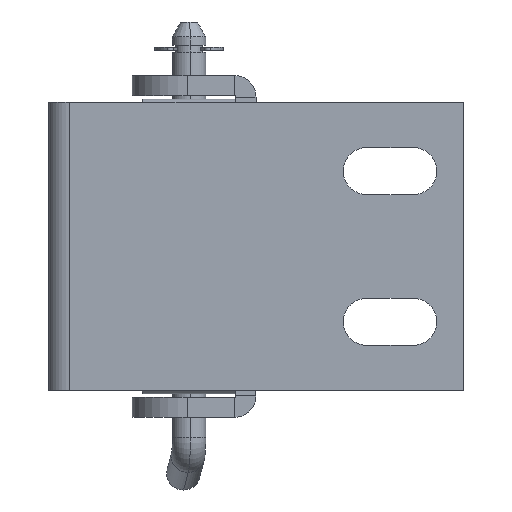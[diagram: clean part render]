
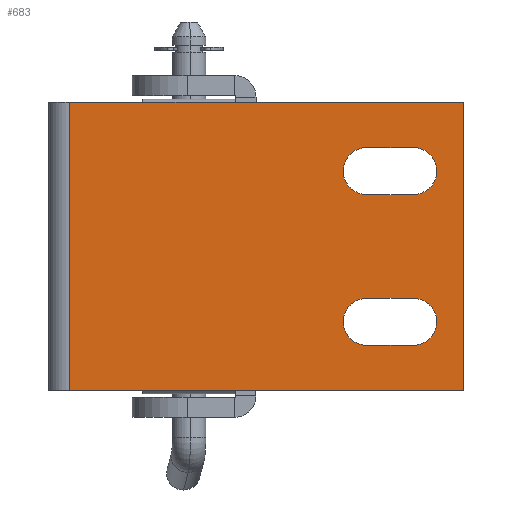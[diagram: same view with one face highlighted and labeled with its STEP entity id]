
A CAD part, front view. The second image highlights one B-rep face of the part: STEP entity #683.
In plain terms, the highlighted planar face has unit normal (0, -1, 0).
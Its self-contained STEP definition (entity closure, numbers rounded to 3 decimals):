
#509 = VERTEX_POINT ( 'NONE', #2243 ) ;
#558 = EDGE_CURVE ( 'NONE', #559, #626, #2296, .T. ) ;
#559 = VERTEX_POINT ( 'NONE', #2292 ) ;
#626 = VERTEX_POINT ( 'NONE', #2481 ) ;
#668 = EDGE_LOOP ( 'NONE', ( #669, #673, #676, #732 ) ) ;
#669 = ORIENTED_EDGE ( 'NONE', *, *, #670, .F. ) ;
#670 = EDGE_CURVE ( 'NONE', #671, #672, #2539, .T. ) ;
#671 = VERTEX_POINT ( 'NONE', #2534 ) ;
#672 = VERTEX_POINT ( 'NONE', #2533 ) ;
#673 = ORIENTED_EDGE ( 'NONE', *, *, #674, .F. ) ;
#674 = EDGE_CURVE ( 'NONE', #675, #671, #2532, .T. ) ;
#675 = VERTEX_POINT ( 'NONE', #2528 ) ;
#676 = ORIENTED_EDGE ( 'NONE', *, *, #677, .F. ) ;
#677 = EDGE_CURVE ( 'NONE', #678, #675, #2527, .T. ) ;
#678 = VERTEX_POINT ( 'NONE', #2522 ) ;
#680 = EDGE_CURVE ( 'NONE', #509, #626, #2521, .T. ) ;
#683 = ADVANCED_FACE ( 'NONE', ( #2517, #2516, #2515 ), #2581, .T. ) ;
#684 = EDGE_LOOP ( 'NONE', ( #685, #689, #692, #748 ) ) ;
#685 = ORIENTED_EDGE ( 'NONE', *, *, #686, .F. ) ;
#686 = EDGE_CURVE ( 'NONE', #687, #688, #2576, .T. ) ;
#687 = VERTEX_POINT ( 'NONE', #2571 ) ;
#688 = VERTEX_POINT ( 'NONE', #2570 ) ;
#689 = ORIENTED_EDGE ( 'NONE', *, *, #690, .F. ) ;
#690 = EDGE_CURVE ( 'NONE', #691, #687, #2569, .T. ) ;
#691 = VERTEX_POINT ( 'NONE', #2565 ) ;
#692 = ORIENTED_EDGE ( 'NONE', *, *, #746, .F. ) ;
#732 = ORIENTED_EDGE ( 'NONE', *, *, #733, .F. ) ;
#733 = EDGE_CURVE ( 'NONE', #672, #678, #2622, .T. ) ;
#734 = EDGE_LOOP ( 'NONE', ( #735, #736, #739, #741 ) ) ;
#735 = ORIENTED_EDGE ( 'NONE', *, *, #558, .F. ) ;
#736 = ORIENTED_EDGE ( 'NONE', *, *, #737, .F. ) ;
#737 = EDGE_CURVE ( 'NONE', #738, #559, #2618, .T. ) ;
#738 = VERTEX_POINT ( 'NONE', #2614 ) ;
#739 = ORIENTED_EDGE ( 'NONE', *, *, #740, .T. ) ;
#740 = EDGE_CURVE ( 'NONE', #738, #509, #2680, .T. ) ;
#741 = ORIENTED_EDGE ( 'NONE', *, *, #680, .T. ) ;
#746 = EDGE_CURVE ( 'NONE', #747, #691, #2669, .T. ) ;
#747 = VERTEX_POINT ( 'NONE', #2664 ) ;
#748 = ORIENTED_EDGE ( 'NONE', *, *, #749, .F. ) ;
#749 = EDGE_CURVE ( 'NONE', #688, #747, #2663, .T. ) ;
#2243 = CARTESIAN_POINT ( 'NONE',  ( 3.2, 0., 43. ) ) ;
#2292 = CARTESIAN_POINT ( 'NONE',  ( 62., 0., 0. ) ) ;
#2293 = DIRECTION ( 'NONE',  ( -1., 0., 0. ) ) ;
#2294 = VECTOR ( 'NONE', #2293, 1000. ) ;
#2295 = CARTESIAN_POINT ( 'NONE',  ( 0., 0., 0. ) ) ;
#2296 = LINE ( 'NONE', #2295, #2294 ) ;
#2481 = CARTESIAN_POINT ( 'NONE',  ( 3.2, 0., 0. ) ) ;
#2515 = FACE_OUTER_BOUND ( 'NONE', #734, .T. ) ;
#2516 = FACE_BOUND ( 'NONE', #668, .T. ) ;
#2517 = FACE_BOUND ( 'NONE', #684, .T. ) ;
#2518 = DIRECTION ( 'NONE',  ( 0., 0., -1. ) ) ;
#2519 = VECTOR ( 'NONE', #2518, 1000. ) ;
#2520 = CARTESIAN_POINT ( 'NONE',  ( 3.2, 0., 43. ) ) ;
#2521 = LINE ( 'NONE', #2520, #2519 ) ;
#2522 = CARTESIAN_POINT ( 'NONE',  ( 47.5, 0., 36.25 ) ) ;
#2523 = DIRECTION ( 'NONE',  ( 0., 0., -1. ) ) ;
#2524 = DIRECTION ( 'NONE',  ( 0., -1., 0. ) ) ;
#2525 = CARTESIAN_POINT ( 'NONE',  ( 47.5, 0., 32.75 ) ) ;
#2526 = AXIS2_PLACEMENT_3D ( 'NONE', #2525, #2524, #2523 ) ;
#2527 = CIRCLE ( 'NONE', #2526, 3.5 ) ;
#2528 = CARTESIAN_POINT ( 'NONE',  ( 47.5, 0., 29.25 ) ) ;
#2529 = DIRECTION ( 'NONE',  ( 1., 0., 0. ) ) ;
#2530 = VECTOR ( 'NONE', #2529, 1000. ) ;
#2531 = CARTESIAN_POINT ( 'NONE',  ( 0., 0., 29.25 ) ) ;
#2532 = LINE ( 'NONE', #2531, #2530 ) ;
#2533 = CARTESIAN_POINT ( 'NONE',  ( 54.5, 0., 36.25 ) ) ;
#2534 = CARTESIAN_POINT ( 'NONE',  ( 54.5, 0., 29.25 ) ) ;
#2535 = DIRECTION ( 'NONE',  ( 0., 0., -1. ) ) ;
#2536 = DIRECTION ( 'NONE',  ( 0., -1., 0. ) ) ;
#2537 = CARTESIAN_POINT ( 'NONE',  ( 54.5, 0., 32.75 ) ) ;
#2538 = AXIS2_PLACEMENT_3D ( 'NONE', #2537, #2536, #2535 ) ;
#2539 = CIRCLE ( 'NONE', #2538, 3.5 ) ;
#2565 = CARTESIAN_POINT ( 'NONE',  ( 47.5, 0., 6.75 ) ) ;
#2566 = DIRECTION ( 'NONE',  ( 1., 0., 0. ) ) ;
#2567 = VECTOR ( 'NONE', #2566, 1000. ) ;
#2568 = CARTESIAN_POINT ( 'NONE',  ( 0., 0., 6.75 ) ) ;
#2569 = LINE ( 'NONE', #2568, #2567 ) ;
#2570 = CARTESIAN_POINT ( 'NONE',  ( 54.5, 0., 13.75 ) ) ;
#2571 = CARTESIAN_POINT ( 'NONE',  ( 54.5, 0., 6.75 ) ) ;
#2572 = DIRECTION ( 'NONE',  ( 0., 0., -1. ) ) ;
#2573 = DIRECTION ( 'NONE',  ( 0., -1., 0. ) ) ;
#2574 = CARTESIAN_POINT ( 'NONE',  ( 54.5, 0., 10.25 ) ) ;
#2575 = AXIS2_PLACEMENT_3D ( 'NONE', #2574, #2573, #2572 ) ;
#2576 = CIRCLE ( 'NONE', #2575, 3.5 ) ;
#2577 = DIRECTION ( 'NONE',  ( 0., 0., -1. ) ) ;
#2578 = DIRECTION ( 'NONE',  ( 0., -1., 0. ) ) ;
#2579 = CARTESIAN_POINT ( 'NONE',  ( 0., 0., 43. ) ) ;
#2580 = AXIS2_PLACEMENT_3D ( 'NONE', #2579, #2578, #2577 ) ;
#2581 = PLANE ( 'NONE',  #2580 ) ;
#2614 = CARTESIAN_POINT ( 'NONE',  ( 62., 0., 43. ) ) ;
#2615 = DIRECTION ( 'NONE',  ( 0., 0., -1. ) ) ;
#2616 = VECTOR ( 'NONE', #2615, 1000. ) ;
#2617 = CARTESIAN_POINT ( 'NONE',  ( 62., 0., 43. ) ) ;
#2618 = LINE ( 'NONE', #2617, #2616 ) ;
#2619 = DIRECTION ( 'NONE',  ( -1., 0., 0. ) ) ;
#2620 = VECTOR ( 'NONE', #2619, 1000. ) ;
#2621 = CARTESIAN_POINT ( 'NONE',  ( 0., 0., 36.25 ) ) ;
#2622 = LINE ( 'NONE', #2621, #2620 ) ;
#2660 = DIRECTION ( 'NONE',  ( -1., 0., 0. ) ) ;
#2661 = VECTOR ( 'NONE', #2660, 1000. ) ;
#2662 = CARTESIAN_POINT ( 'NONE',  ( 0., 0., 13.75 ) ) ;
#2663 = LINE ( 'NONE', #2662, #2661 ) ;
#2664 = CARTESIAN_POINT ( 'NONE',  ( 47.5, 0., 13.75 ) ) ;
#2665 = DIRECTION ( 'NONE',  ( 0., 0., -1. ) ) ;
#2666 = DIRECTION ( 'NONE',  ( 0., -1., 0. ) ) ;
#2667 = CARTESIAN_POINT ( 'NONE',  ( 47.5, 0., 10.25 ) ) ;
#2668 = AXIS2_PLACEMENT_3D ( 'NONE', #2667, #2666, #2665 ) ;
#2669 = CIRCLE ( 'NONE', #2668, 3.5 ) ;
#2677 = DIRECTION ( 'NONE',  ( -1., 0., 0. ) ) ;
#2678 = VECTOR ( 'NONE', #2677, 1000. ) ;
#2679 = CARTESIAN_POINT ( 'NONE',  ( 0., 0., 43. ) ) ;
#2680 = LINE ( 'NONE', #2679, #2678 ) ;
